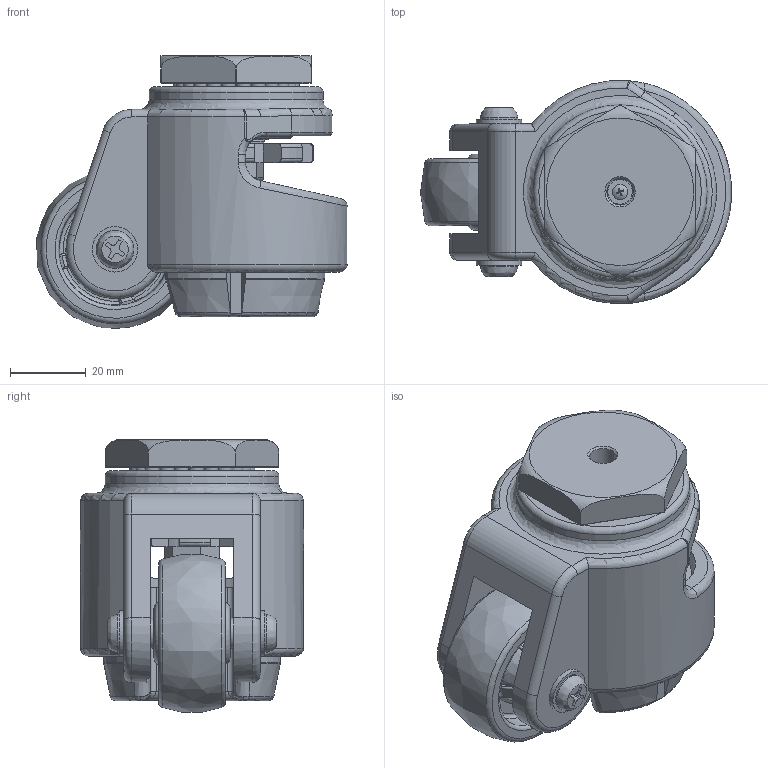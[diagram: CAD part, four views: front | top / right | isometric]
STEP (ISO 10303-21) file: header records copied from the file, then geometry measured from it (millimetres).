
FILE_DESCRIPTION((' '),'2;1');
FILE_NAME('Y:\00. A standard brand\06. 3D Modeling\외부전송용_STEP\CARRYMASTER(STEP)\AC-50S.stp.stp','2011-11-22T13:33:26',(' '),(' '),' ','ACIS',' ');
FILE_SCHEMA(('CONFIG_CONTROL_DESIGN'));
Length unit declared in the file: millimetre
Products named in the file (1): Y:\00. A standard brand\06. 3D Modeling\외부전송용_STEP\CARRYMASTER(STEP)\AC-50S.stp.stp
Bounding box: 82.23 x 58.99 x 71.97 mm (x, y, z)
Volume: 131163.3 mm3; surface area: 50012.4 mm2
Topology: 5 solids, 8 shells, 639 faces, 1722 edges, 1045 vertices
Faces by surface type: plane 229, cylinder 185, torus 78, bspline 75, sphere 45, cone 27
Full cylindrical faces by diameter (mm): 1.6 x1, 2 x1, 3.2 x1, 4 x1, 5.2 x1, 6 x1, 6.49 x1, 8 x2, 8.2 x1, 9 x2, 10 x2, 12 x2, 15 x1, 18 x2, 22.5 x1, 24 x1, 30 x1, 32.2 x1, 46 x1
Entity records: 26030 total; most frequent: CARTESIAN_POINT 11370, DIRECTION 3068, ORIENTED_EDGE 2982, EDGE_CURVE 1491, AXIS2_PLACEMENT_3D 1216, VERTEX_POINT 937, EDGE_LOOP 740, FACE_OUTER_BOUND 639
